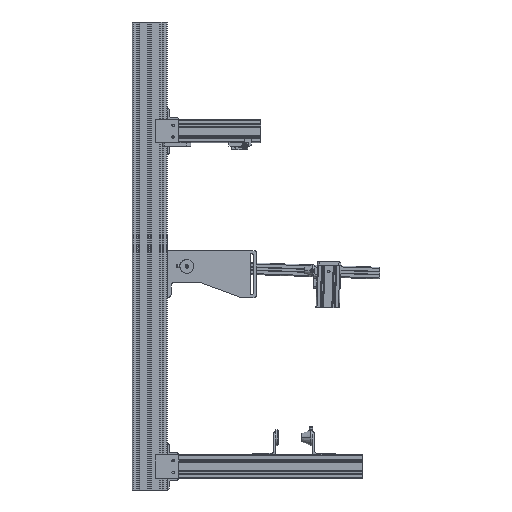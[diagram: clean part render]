
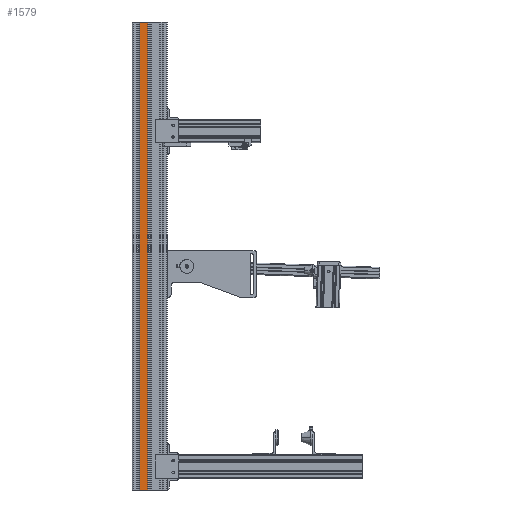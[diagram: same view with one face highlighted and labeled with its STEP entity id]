
A CAD part, front view. The second image highlights one B-rep face of the part: STEP entity #1579.
In plain terms, the highlighted planar face has unit normal (0, -1, 0) as drawn and (-1, 0, 0) by its records, which use the part's own axes.
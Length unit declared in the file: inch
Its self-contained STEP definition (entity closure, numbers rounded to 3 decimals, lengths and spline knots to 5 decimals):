
#901 = CARTESIAN_POINT ( 'NONE',  ( -0.75, 0.222, -60. ) ) ;
#1579 = ADVANCED_FACE ( 'NONE', ( #2958 ), #8293, .T. ) ;
#1654 = CARTESIAN_POINT ( 'NONE',  ( -0.75, 1.278, 0. ) ) ;
#2958 = FACE_OUTER_BOUND ( 'NONE', #49448, .T. ) ;
#5803 = LINE ( 'NONE', #63471, #30147 ) ;
#5929 = VECTOR ( 'NONE', #42989, 39.37008 ) ;
#6804 = ORIENTED_EDGE ( 'NONE', *, *, #44508, .F. ) ;
#7040 = LINE ( 'NONE', #901, #68624 ) ;
#7410 = VERTEX_POINT ( 'NONE', #46123 ) ;
#8293 = PLANE ( 'NONE',  #59491 ) ;
#9100 = CARTESIAN_POINT ( 'NONE',  ( -0.75, 1.278, -60. ) ) ;
#12483 = ORIENTED_EDGE ( 'NONE', *, *, #53215, .T. ) ;
#14552 = DIRECTION ( 'NONE',  ( 0., 0., 1. ) ) ;
#20375 = CARTESIAN_POINT ( 'NONE',  ( -0.75, 1.278, -60. ) ) ;
#26101 = VERTEX_POINT ( 'NONE', #29812 ) ;
#29812 = CARTESIAN_POINT ( 'NONE',  ( -0.75, 0.222, 0. ) ) ;
#30147 = VECTOR ( 'NONE', #68480, 39.37008 ) ;
#32457 = DIRECTION ( 'NONE',  ( 0., 0., 1. ) ) ;
#32527 = EDGE_CURVE ( 'NONE', #39492, #26101, #7040, .T. ) ;
#32983 = CARTESIAN_POINT ( 'NONE',  ( -0.75, 0.222, -60. ) ) ;
#34811 = EDGE_CURVE ( 'NONE', #7410, #26101, #39011, .T. ) ;
#39011 = LINE ( 'NONE', #1654, #67124 ) ;
#39492 = VERTEX_POINT ( 'NONE', #32983 ) ;
#42989 = DIRECTION ( 'NONE',  ( 0., -1., 0. ) ) ;
#43806 = LINE ( 'NONE', #75260, #5929 ) ;
#44508 = EDGE_CURVE ( 'NONE', #78533, #7410, #5803, .T. ) ;
#44856 = DIRECTION ( 'NONE',  ( 0., -1., 0. ) ) ;
#46123 = CARTESIAN_POINT ( 'NONE',  ( -0.75, 1.278, 0. ) ) ;
#49448 = EDGE_LOOP ( 'NONE', ( #68242, #6804, #12483, #71628 ) ) ;
#53215 = EDGE_CURVE ( 'NONE', #78533, #39492, #43806, .T. ) ;
#59491 = AXIS2_PLACEMENT_3D ( 'NONE', #20375, #71403, #14552 ) ;
#63471 = CARTESIAN_POINT ( 'NONE',  ( -0.75, 1.278, -60. ) ) ;
#67124 = VECTOR ( 'NONE', #44856, 39.37008 ) ;
#68242 = ORIENTED_EDGE ( 'NONE', *, *, #34811, .F. ) ;
#68480 = DIRECTION ( 'NONE',  ( 0., 0., 1. ) ) ;
#68624 = VECTOR ( 'NONE', #32457, 39.37008 ) ;
#71403 = DIRECTION ( 'NONE',  ( -1., 0., 0. ) ) ;
#71628 = ORIENTED_EDGE ( 'NONE', *, *, #32527, .T. ) ;
#75260 = CARTESIAN_POINT ( 'NONE',  ( -0.75, 1.278, -60. ) ) ;
#78533 = VERTEX_POINT ( 'NONE', #9100 ) ;
